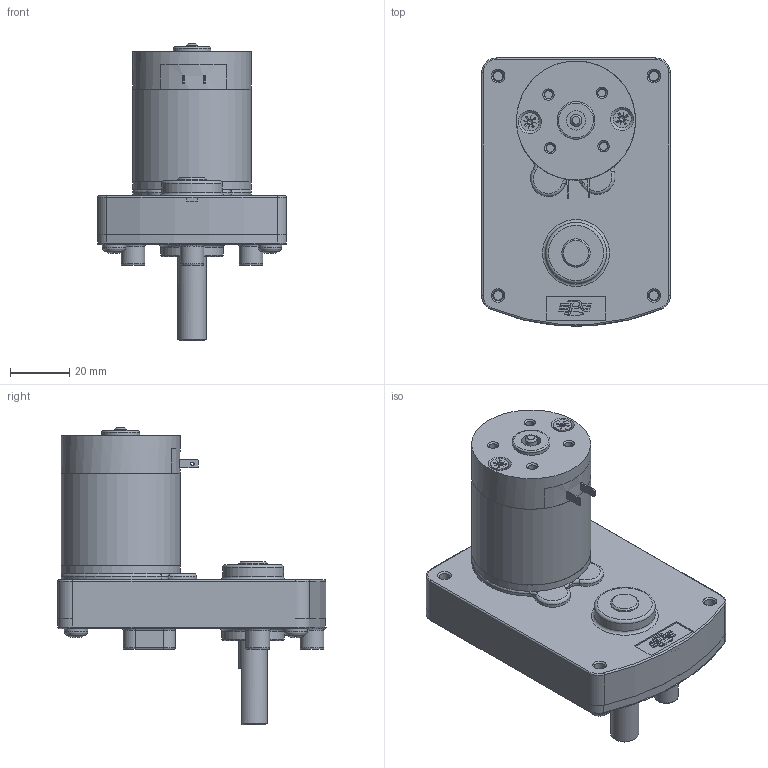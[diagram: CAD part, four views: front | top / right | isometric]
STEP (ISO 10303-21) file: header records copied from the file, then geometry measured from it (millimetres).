
FILE_DESCRIPTION(/* description */ (''),/* implementation_level */ '2;1');
FILE_NAME(/* name */ 'C:\Users\byjeong\Desktop\3D도면\SR42T.stp',/* time_stamp */ '2015-03-31T14:55:22+09:00',/* author */ ('byjeong'),/* organization */ (''),/* preprocessor_version */ 'ST-DEVELOPER v15.6',/* originating_system */ 'Autodesk Inventor 2015',/* authorisation */ '');
FILE_SCHEMA (('AUTOMOTIVE_DESIGN { 1 0 10303 214 3 1 1 }'));
Length unit declared in the file: millimetre
Products named in the file (10): SR BOX ASSY; RM4TYPE_BRUSH_BRAKET_TERMINAL; RM4TYPE_REAR_HOUSING; REAR_HOUSING__ASS'Y_TERMINAL; RM4TYPE_FRONT_HOUSING_; RM4TYPE_PIPE_HOUSING_pi40XL31.2; RM42TYPE_SHAFT; AS 1427 Z - 미터 M3.5 x 5; RM42ㅁBT; 조립품2
Bounding box: 63.5 x 90.14 x 100.17 mm (x, y, z)
Volume: 66228.3 mm3; surface area: 53920.8 mm2
Topology: 9 solids, 18 shells, 637 faces, 1560 edges, 995 vertices
Faces by surface type: plane 277, cylinder 159, cone 128, torus 68, sphere 4, bspline 1
Full cylindrical faces by diameter (mm): 1.2 x2, 2.5 x1, 2.7 x4, 2.8 x4, 3 x3, 3.132 x2, 3.4 x7, 3.5 x2, 3.571 x4, 3.6 x6, 3.7 x2, 3.969 x1, 4 x8, 4.4 x6, 4.45 x1, 5 x1, 6.1 x2, 6.5 x1, 6.65 x1, 8 x3, 9.525 x2, 9.528 x1, 9.565 x2, 12.7 x3, 14.3 x3, 16.6 x1, 17.6 x1, 20.5 x1, 21 x1, 23 x1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
Entity records: 17607 total; most frequent: CARTESIAN_POINT 4103, DIRECTION 2875, ORIENTED_EDGE 2510, EDGE_CURVE 1251, AXIS2_PLACEMENT_3D 1185, VERTEX_POINT 887, EDGE_LOOP 842, FACE_OUTER_BOUND 596
